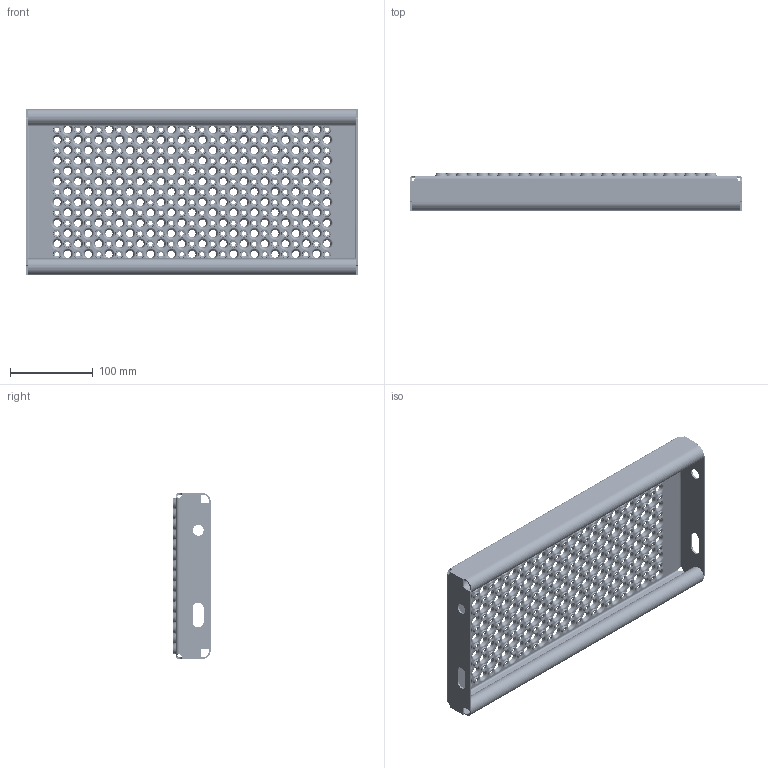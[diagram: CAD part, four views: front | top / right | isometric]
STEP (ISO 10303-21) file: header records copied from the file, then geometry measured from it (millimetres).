
FILE_DESCRIPTION (( 'STEP AP214' ), '1' );
FILE_NAME ('OPTIMO-Tread-Achil-O2-400x200x45x2-st240-F100000100.STEP', '2021-03-15T09:31:32', ( '' ), ( '' ), 'SwSTEP 2.0', 'SolidWorks 2021', '' );
FILE_SCHEMA (( 'AUTOMOTIVE_DESIGN' ));
Length unit declared in the file: millimetre
Products named in the file (1): OPTIMO-Tread-Achil-O2-400x200x45x2-st240-F100000100
Bounding box: 400 x 45 x 200 mm (x, y, z)
Volume: 311968 mm3; surface area: 335519.6 mm2
Topology: 1 solids, 1 shells, 4148 faces, 10762 edges, 6616 vertices
Faces by surface type: cone 2430, torus 1620, plane 50, cylinder 40, bspline 8
Entity records: 132096 total; most frequent: DIRECTION 27176, CARTESIAN_POINT 22119, ORIENTED_EDGE 21524, AXIS2_PLACEMENT_3D 12305, EDGE_CURVE 10762, CIRCLE 8164, VERTEX_POINT 6616, EDGE_LOOP 4966
